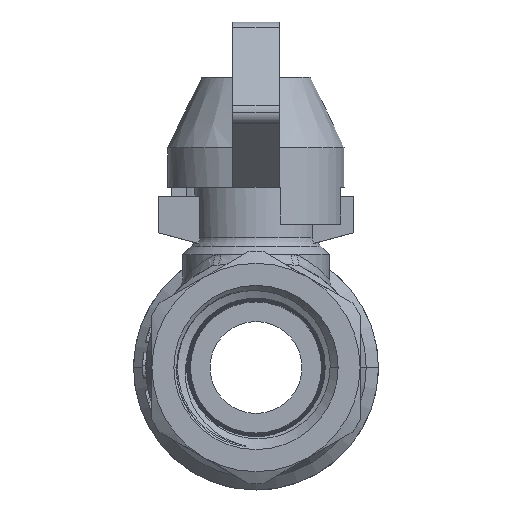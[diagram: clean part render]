
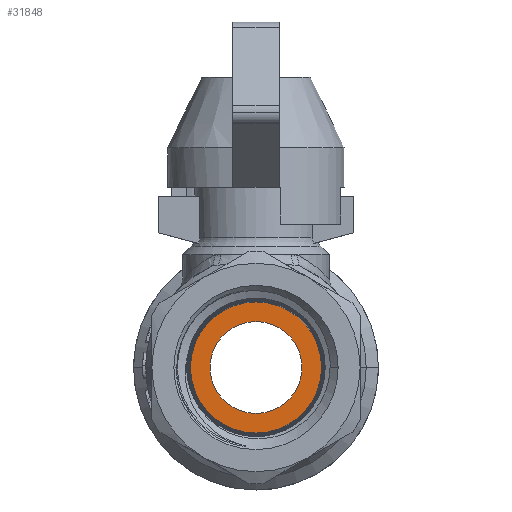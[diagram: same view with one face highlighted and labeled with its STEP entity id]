
A CAD part, left-side view. The second image highlights one B-rep face of the part: STEP entity #31848.
In plain terms, the highlighted planar face has unit normal (-1, 0, 0).
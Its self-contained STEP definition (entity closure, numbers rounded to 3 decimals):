
#5538 = VERTEX_POINT('',#5539);
#5539 = CARTESIAN_POINT('',(-9.,2.327,
    -1.668));
#5548 = CONICAL_SURFACE('',#5549,5.671,0.031);
#5549 = AXIS2_PLACEMENT_3D('',#5550,#5551,#5552);
#5550 = CARTESIAN_POINT('',(-19.468,7.678,
    -1.668));
#5551 = DIRECTION('',(-1.,0.,0.));
#5552 = DIRECTION('',(-0.,-1.,0.));
#5560 = CONICAL_SURFACE('',#5561,5.671,0.031);
#5561 = AXIS2_PLACEMENT_3D('',#5562,#5563,#5564);
#5562 = CARTESIAN_POINT('',(-19.468,7.678,
    -1.668));
#5563 = DIRECTION('',(-1.,0.,0.));
#5564 = DIRECTION('',(-0.,-1.,0.));
#5811 = VERTEX_POINT('',#5812);
#5812 = CARTESIAN_POINT('',(-9.,13.03,
    -1.668));
#5833 = EDGE_CURVE('',#5811,#5538,#5834,.T.);
#5834 = SURFACE_CURVE('',#5835,(#5840,#5847),.PCURVE_S1.);
#5835 = CIRCLE('',#5836,5.351);
#5836 = AXIS2_PLACEMENT_3D('',#5837,#5838,#5839);
#5837 = CARTESIAN_POINT('',(-9.,7.678,
    -1.668));
#5838 = DIRECTION('',(-1.,0.,0.));
#5839 = DIRECTION('',(-0.,-1.,0.));
#5840 = PCURVE('',#5548,#5841);
#5841 = DEFINITIONAL_REPRESENTATION('',(#5842),#5846);
#5842 = LINE('',#5843,#5844);
#5843 = CARTESIAN_POINT('',(0.,-10.468));
#5844 = VECTOR('',#5845,1.);
#5845 = DIRECTION('',(1.,0.));
#5846 = ( GEOMETRIC_REPRESENTATION_CONTEXT(2) 
PARAMETRIC_REPRESENTATION_CONTEXT() REPRESENTATION_CONTEXT('2D SPACE',''
  ) );
#5847 = PCURVE('',#5848,#5853);
#5848 = PLANE('',#5849);
#5849 = AXIS2_PLACEMENT_3D('',#5850,#5851,#5852);
#5850 = CARTESIAN_POINT('',(-9.,7.678,
    -1.668));
#5851 = DIRECTION('',(1.,0.,0.));
#5852 = DIRECTION('',(-0.,1.,0.));
#5853 = DEFINITIONAL_REPRESENTATION('',(#5854),#5862);
#5854 = ( BOUNDED_CURVE() B_SPLINE_CURVE(2,(#5855,#5856,#5857,#5858,
#5859,#5860,#5861),.UNSPECIFIED.,.T.,.F.) B_SPLINE_CURVE_WITH_KNOTS((1,2
    ,2,2,2,1),(-2.094,0.,2.094,4.189,
6.283,8.378),.UNSPECIFIED.) CURVE() 
GEOMETRIC_REPRESENTATION_ITEM() RATIONAL_B_SPLINE_CURVE((1.,0.5,1.,0.5,
1.,0.5,1.)) REPRESENTATION_ITEM('') );
#5855 = CARTESIAN_POINT('',(-5.351,0.));
#5856 = CARTESIAN_POINT('',(-5.351,9.269));
#5857 = CARTESIAN_POINT('',(2.676,4.635));
#5858 = CARTESIAN_POINT('',(10.703,0.));
#5859 = CARTESIAN_POINT('',(2.676,-4.635));
#5860 = CARTESIAN_POINT('',(-5.351,-9.269));
#5861 = CARTESIAN_POINT('',(-5.351,0.));
#5862 = ( GEOMETRIC_REPRESENTATION_CONTEXT(2) 
PARAMETRIC_REPRESENTATION_CONTEXT() REPRESENTATION_CONTEXT('2D SPACE',''
  ) );
#11967 = VERTEX_POINT('',#11968);
#11968 = CARTESIAN_POINT('',(-9.,3.928,
    -1.668));
#11975 = CYLINDRICAL_SURFACE('',#11976,3.75);
#11976 = AXIS2_PLACEMENT_3D('',#11977,#11978,#11979);
#11977 = CARTESIAN_POINT('',(-20.5,7.678,
    -1.668));
#11978 = DIRECTION('',(-1.,0.,0.));
#11979 = DIRECTION('',(-0.,-1.,0.));
#11987 = CYLINDRICAL_SURFACE('',#11988,3.75);
#11988 = AXIS2_PLACEMENT_3D('',#11989,#11990,#11991);
#11989 = CARTESIAN_POINT('',(-20.5,7.678,
    -1.668));
#11990 = DIRECTION('',(-1.,0.,0.));
#11991 = DIRECTION('',(-0.,-1.,0.));
#11999 = EDGE_CURVE('',#12000,#11967,#12002,.T.);
#12000 = VERTEX_POINT('',#12001);
#12001 = CARTESIAN_POINT('',(-9.,11.428,
    -1.668));
#12002 = SURFACE_CURVE('',#12003,(#12008,#12015),.PCURVE_S1.);
#12003 = CIRCLE('',#12004,3.75);
#12004 = AXIS2_PLACEMENT_3D('',#12005,#12006,#12007);
#12005 = CARTESIAN_POINT('',(-9.,7.678,
    -1.668));
#12006 = DIRECTION('',(-1.,0.,0.));
#12007 = DIRECTION('',(-0.,-1.,0.));
#12008 = PCURVE('',#11975,#12009);
#12009 = DEFINITIONAL_REPRESENTATION('',(#12010),#12014);
#12010 = LINE('',#12011,#12012);
#12011 = CARTESIAN_POINT('',(0.,-11.5));
#12012 = VECTOR('',#12013,1.);
#12013 = DIRECTION('',(1.,0.));
#12014 = ( GEOMETRIC_REPRESENTATION_CONTEXT(2) 
PARAMETRIC_REPRESENTATION_CONTEXT() REPRESENTATION_CONTEXT('2D SPACE',''
  ) );
#12015 = PCURVE('',#5848,#12016);
#12016 = DEFINITIONAL_REPRESENTATION('',(#12017),#12025);
#12017 = ( BOUNDED_CURVE() B_SPLINE_CURVE(2,(#12018,#12019,#12020,#12021
    ,#12022,#12023,#12024),.UNSPECIFIED.,.T.,.F.) 
B_SPLINE_CURVE_WITH_KNOTS((1,2,2,2,2,1),(-2.094,0.,
    2.094,4.189,6.283,8.378),
.UNSPECIFIED.) CURVE() GEOMETRIC_REPRESENTATION_ITEM() 
RATIONAL_B_SPLINE_CURVE((1.,0.5,1.,0.5,1.,0.5,1.)) REPRESENTATION_ITEM(
  '') );
#12018 = CARTESIAN_POINT('',(-3.75,0.));
#12019 = CARTESIAN_POINT('',(-3.75,6.495));
#12020 = CARTESIAN_POINT('',(1.875,3.248));
#12021 = CARTESIAN_POINT('',(7.5,0.));
#12022 = CARTESIAN_POINT('',(1.875,-3.248));
#12023 = CARTESIAN_POINT('',(-3.75,-6.495));
#12024 = CARTESIAN_POINT('',(-3.75,0.));
#12025 = ( GEOMETRIC_REPRESENTATION_CONTEXT(2) 
PARAMETRIC_REPRESENTATION_CONTEXT() REPRESENTATION_CONTEXT('2D SPACE',''
  ) );
#31823 = EDGE_CURVE('',#11967,#12000,#31824,.T.);
#31824 = SURFACE_CURVE('',#31825,(#31830,#31837),.PCURVE_S1.);
#31825 = CIRCLE('',#31826,3.75);
#31826 = AXIS2_PLACEMENT_3D('',#31827,#31828,#31829);
#31827 = CARTESIAN_POINT('',(-9.,7.678,
    -1.668));
#31828 = DIRECTION('',(-1.,0.,0.));
#31829 = DIRECTION('',(-0.,-1.,0.));
#31830 = PCURVE('',#11987,#31831);
#31831 = DEFINITIONAL_REPRESENTATION('',(#31832),#31836);
#31832 = LINE('',#31833,#31834);
#31833 = CARTESIAN_POINT('',(0.,-11.5));
#31834 = VECTOR('',#31835,1.);
#31835 = DIRECTION('',(1.,0.));
#31836 = ( GEOMETRIC_REPRESENTATION_CONTEXT(2) 
PARAMETRIC_REPRESENTATION_CONTEXT() REPRESENTATION_CONTEXT('2D SPACE',''
  ) );
#31837 = PCURVE('',#5848,#31838);
#31838 = DEFINITIONAL_REPRESENTATION('',(#31839),#31847);
#31839 = ( BOUNDED_CURVE() B_SPLINE_CURVE(2,(#31840,#31841,#31842,#31843
    ,#31844,#31845,#31846),.UNSPECIFIED.,.T.,.F.) 
B_SPLINE_CURVE_WITH_KNOTS((1,2,2,2,2,1),(-2.094,0.,
    2.094,4.189,6.283,8.378),
.UNSPECIFIED.) CURVE() GEOMETRIC_REPRESENTATION_ITEM() 
RATIONAL_B_SPLINE_CURVE((1.,0.5,1.,0.5,1.,0.5,1.)) REPRESENTATION_ITEM(
  '') );
#31840 = CARTESIAN_POINT('',(-3.75,0.));
#31841 = CARTESIAN_POINT('',(-3.75,6.495));
#31842 = CARTESIAN_POINT('',(1.875,3.248));
#31843 = CARTESIAN_POINT('',(7.5,0.));
#31844 = CARTESIAN_POINT('',(1.875,-3.248));
#31845 = CARTESIAN_POINT('',(-3.75,-6.495));
#31846 = CARTESIAN_POINT('',(-3.75,0.));
#31847 = ( GEOMETRIC_REPRESENTATION_CONTEXT(2) 
PARAMETRIC_REPRESENTATION_CONTEXT() REPRESENTATION_CONTEXT('2D SPACE',''
  ) );
#31848 = ADVANCED_FACE('',(#31849,#31853),#5848,.F.);
#31849 = FACE_BOUND('',#31850,.T.);
#31850 = EDGE_LOOP('',(#31851,#31852));
#31851 = ORIENTED_EDGE('',*,*,#31823,.F.);
#31852 = ORIENTED_EDGE('',*,*,#11999,.F.);
#31853 = FACE_BOUND('',#31854,.T.);
#31854 = EDGE_LOOP('',(#31855,#31881));
#31855 = ORIENTED_EDGE('',*,*,#31856,.T.);
#31856 = EDGE_CURVE('',#5538,#5811,#31857,.T.);
#31857 = SURFACE_CURVE('',#31858,(#31863,#31874),.PCURVE_S1.);
#31858 = CIRCLE('',#31859,5.351);
#31859 = AXIS2_PLACEMENT_3D('',#31860,#31861,#31862);
#31860 = CARTESIAN_POINT('',(-9.,7.678,
    -1.668));
#31861 = DIRECTION('',(-1.,0.,0.));
#31862 = DIRECTION('',(-0.,-1.,0.));
#31863 = PCURVE('',#5848,#31864);
#31864 = DEFINITIONAL_REPRESENTATION('',(#31865),#31873);
#31865 = ( BOUNDED_CURVE() B_SPLINE_CURVE(2,(#31866,#31867,#31868,#31869
    ,#31870,#31871,#31872),.UNSPECIFIED.,.T.,.F.) 
B_SPLINE_CURVE_WITH_KNOTS((1,2,2,2,2,1),(-2.094,0.,
    2.094,4.189,6.283,8.378),
.UNSPECIFIED.) CURVE() GEOMETRIC_REPRESENTATION_ITEM() 
RATIONAL_B_SPLINE_CURVE((1.,0.5,1.,0.5,1.,0.5,1.)) REPRESENTATION_ITEM(
  '') );
#31866 = CARTESIAN_POINT('',(-5.351,0.));
#31867 = CARTESIAN_POINT('',(-5.351,9.269));
#31868 = CARTESIAN_POINT('',(2.676,4.635));
#31869 = CARTESIAN_POINT('',(10.703,0.));
#31870 = CARTESIAN_POINT('',(2.676,-4.635));
#31871 = CARTESIAN_POINT('',(-5.351,-9.269));
#31872 = CARTESIAN_POINT('',(-5.351,0.));
#31873 = ( GEOMETRIC_REPRESENTATION_CONTEXT(2) 
PARAMETRIC_REPRESENTATION_CONTEXT() REPRESENTATION_CONTEXT('2D SPACE',''
  ) );
#31874 = PCURVE('',#5560,#31875);
#31875 = DEFINITIONAL_REPRESENTATION('',(#31876),#31880);
#31876 = LINE('',#31877,#31878);
#31877 = CARTESIAN_POINT('',(0.,-10.468));
#31878 = VECTOR('',#31879,1.);
#31879 = DIRECTION('',(1.,0.));
#31880 = ( GEOMETRIC_REPRESENTATION_CONTEXT(2) 
PARAMETRIC_REPRESENTATION_CONTEXT() REPRESENTATION_CONTEXT('2D SPACE',''
  ) );
#31881 = ORIENTED_EDGE('',*,*,#5833,.T.);
